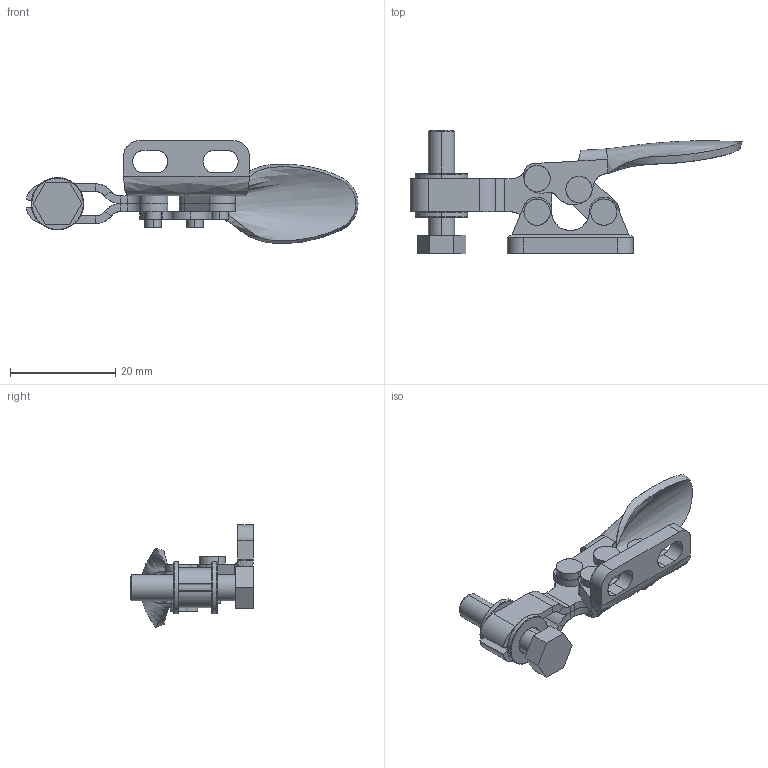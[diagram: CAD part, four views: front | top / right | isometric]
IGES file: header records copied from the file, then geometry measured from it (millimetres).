
Start section: SolidWorks IGES file using analytic representation for surfaces
Global section: file name: C:\Projetos\Grampos\KF-105\KF-105 DU\KF-105 DU.IGS; native system: SolidWorks 2013; preprocessor: SolidWorks 2013; author: Ricardo; date: 140815.140520; units: millimetre
Bounding box: 63.23 x 23.5 x 19.57 mm (x, y, z)
Surface area: 5019.2 mm2 (no closed solid volume)
Topology: 0 solids, 0 shells, 229 faces, 3600 edges, 3630 vertices
Faces by surface type: revolution 129, bspline 100
